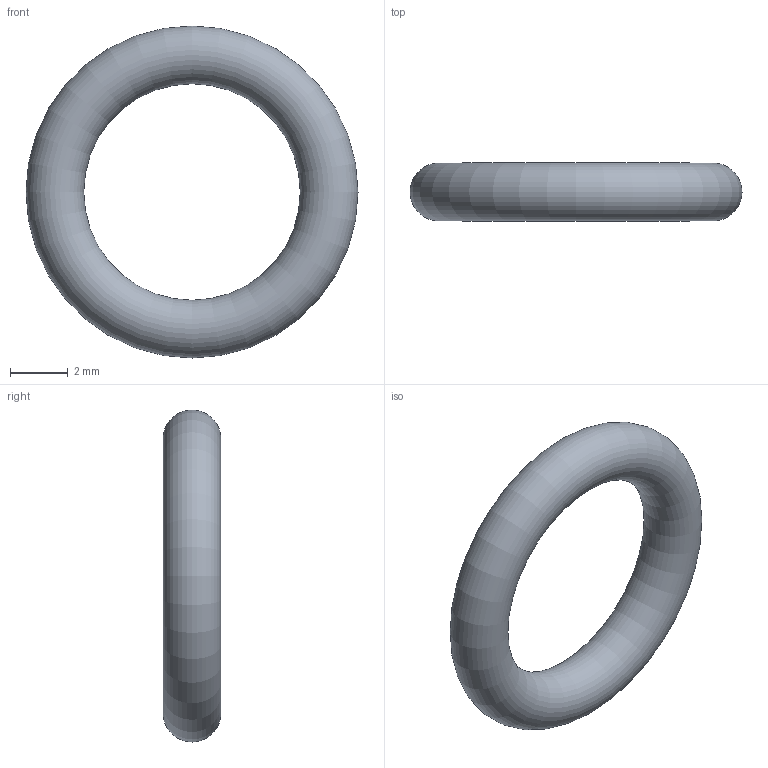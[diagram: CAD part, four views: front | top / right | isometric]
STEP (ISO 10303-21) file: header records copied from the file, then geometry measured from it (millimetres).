
FILE_DESCRIPTION( ( 'STEP AP203' ), '1' );
FILE_NAME( 'C:/Temp/Ganter_Step_05_03_2020/data/3_5/or638/O-Ring OR638-7.50-2.00-70.stp', '2020-03-12T13:44:21', ( 'License CC BY-ND 4.0' ), ( 'CADENAS' ), ' ', 'PARTsolutions', ' ' );
FILE_SCHEMA( ( 'CONFIG_CONTROL_DESIGN' ) );
Length unit declared in the file: millimetre
Products named in the file (1): _O-Ring OR638-7.50-2.00-70
Bounding box: 11.5 x 2 x 11.5 mm (x, y, z)
Volume: 93.8 mm3; surface area: 187.5 mm2
Topology: 1 solids, 1 shells, 1 faces, 2 edges, 1 vertices
Faces by surface type: torus 1
Entity records: 62 total; most frequent: CC_DESIGN_PERSON_AND_ORGANIZATION_ASSIGNMENT 5, PERSON_AND_ORGANIZATION_ROLE 4, DIRECTION 4, CARTESIAN_POINT 3, DATE_TIME_ROLE 2, CC_DESIGN_DATE_AND_TIME_ASSIGNMENT 2, AXIS2_PLACEMENT_3D 2, DIMENSIONAL_EXPONENTS 2
